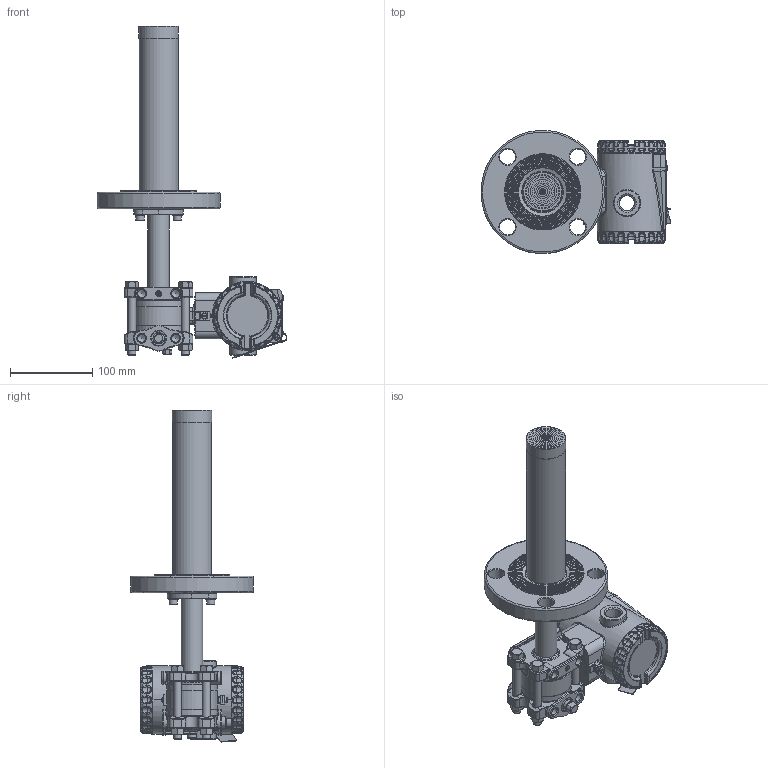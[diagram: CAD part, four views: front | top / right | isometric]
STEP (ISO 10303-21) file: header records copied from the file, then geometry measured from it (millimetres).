
FILE_DESCRIPTION(/* description */ (''),/* implementation_level */ '2;1');
FILE_NAME(/* name */ 'F:\Area\Desenvolvimento_2\Projects\Sensor\projetos\LD400-3d\dimensionais 3D clientes\LD400L\LD400L 2-150 RF ext 200 ref 1-4NPT purga acima.stp',/* time_stamp */ '2023-02-23T15:22:19-03:00',/* author */ ('inventor02'),/* organization */ (''),/* preprocessor_version */ 'ST-DEVELOPER v17',/* originating_system */ 'Autodesk Inventor 2019',/* authorisation */ '');
FILE_SCHEMA (('CONFIG_CONTROL_DESIGN'));
Products named in the file (41): LD30XL 2-150 RF ext 200 ref 1-4NPT purga acima; 204-0301-L-2 150 RF ext 200 purga acima; nivel fx3 com baixa diferencial 1-4NPT purga acima; involucro fx0-3 apos a usinagem final; flange diferencial std purga; 101-C-7484-01 flange selo nivel VR; 201-A-0504-tubo união teste 1; bujao 1-4NPT; Sangria; Porca 3-8 x 16 UNC; Paraf. 3-8 x 16 UNC; adaptação tubo x flanges 1-1-2 a 4pol; 101-B-0161-anel cortado do tubo - teste1; 101-B-0162-flange fixação tubo; ANSI B18.3.1M - M6x1 x 16; DIN 127 - A 6; flange 2 150 ext 200; 101-C-0108-10; 101-B-7700-01-200; 101-B-0168-11; Carcaça 400 com tampas e plaqueta sem letras; 101-D-0845-05 carcaça LD400 sem letras; 101-B-3614-03-tampa 400 sem letras; Tampa visor 400 montada sem letras; 101-B-3612-05 tampa visor 400 sem letras; 101-A-6107; oring 2034; 00034775-0; WHW_250; DIN 915 - M6 x 10; Chapa aterramento externo; 201-A-1771-02 inserto terra recartilhado; AS 1969 - ST4,2; ISO 1207 - M4 x 8; ANSI B18.3.1M - M4x0,7 x 8; Subconjunto plaqueta 400; plaqueta 400 em branco; Parafuso da Plaqueta; Rebite da Plaqueta; 096-A-0169-03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
Assembly tree (50 placements, depth 4):
  LD30XL 2-150 RF ext 200 ref 1-4NPT purga acima
    204-0301-L-2 150 RF ext 200 purga acima
      nivel fx3 com baixa diferencial 1-4NPT purga acima
        involucro fx0-3 apos a usinagem final
        flange diferencial std purga
        101-C-7484-01 flange selo nivel VR
        201-A-0504-tubo união teste 1
        DIN 915 - M6 x 10
        bujao 1-4NPT
        Sangria
        Porca 3-8 x 16 UNC  x4
        Paraf. 3-8 x 16 UNC  x4
      adaptação tubo x flanges 1-1-2 a 4pol
        101-B-0161-anel cortado do tubo - teste1
        101-B-0162-flange fixação tubo
        ANSI B18.3.1M - M6x1 x 16  x2
        DIN 127 - A 6  x2
      flange 2 150 ext 200
        101-C-0108-10
        101-B-7700-01-200
        101-B-0168-11
    Carcaça 400 com tampas e plaqueta sem letras
      101-D-0845-05 carcaça LD400 sem letras
      101-B-3614-03-tampa 400 sem letras
      Tampa visor 400 montada sem letras
        101-B-3612-05 tampa visor 400 sem letras
        101-A-6107
        oring 2034
        00034775-0
        WHW_250
      DIN 915 - M6 x 10
      Chapa aterramento externo
      201-A-1771-02 inserto terra recartilhado
      AS 1969 - ST4,2
      ISO 1207 - M4 x 8
      ANSI B18.3.1M - M4x0,7 x 8  x2
      Subconjunto plaqueta 400
        plaqueta 400 em branco
        Parafuso da Plaqueta
        Rebite da Plaqueta
        096-A-0169-03
        101-A-0502-01
Bounding box: 230.46 x 149.43 x 403.42 mm (x, y, z)
Volume: 1076188.6 mm3; surface area: 367009 mm2
Topology: 43 solids, 43 shells, 2779 faces, 6729 edges, 4040 vertices
Faces by surface type: plane 730, cylinder 664, bspline 604, torus 483, cone 222, sphere 76
Full cylindrical faces by diameter (mm): 2 x4, 2.1 x1, 2.2 x1, 2.459 x3, 2.5 x1, 2.7 x1, 2.8 x1, 3 x4, 3.242 x3, 3.5 x1, 3.571 x1, 4 x5, 4.3 x2, 4.4 x1, 4.917 x4, 5 x1, 5.5 x3, 6 x6, 6.1 x2, 6.2 x1, 6.647 x1, 7 x5, 7.6 x2, 7.798 x4, 8 x1, 9.525 x4, 9.728 x6, 10 x2, 10.5 x8, 10.719 x2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
Entity records: 98938 total; most frequent: CARTESIAN_POINT 37110, DIRECTION 12760, ORIENTED_EDGE 12698, EDGE_CURVE 6349, AXIS2_PLACEMENT_3D 5469, VERTEX_POINT 3846, CIRCLE 3177, EDGE_LOOP 2823
